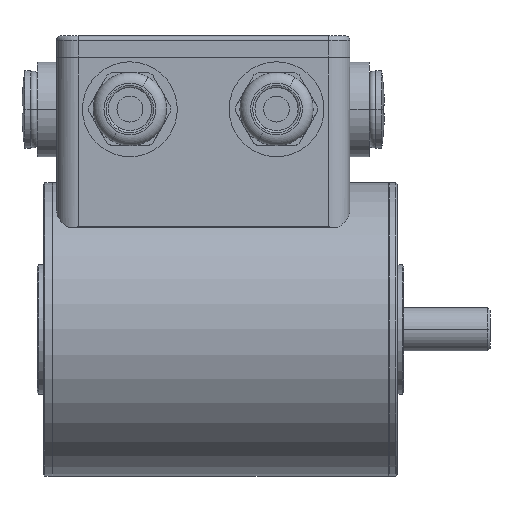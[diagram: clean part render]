
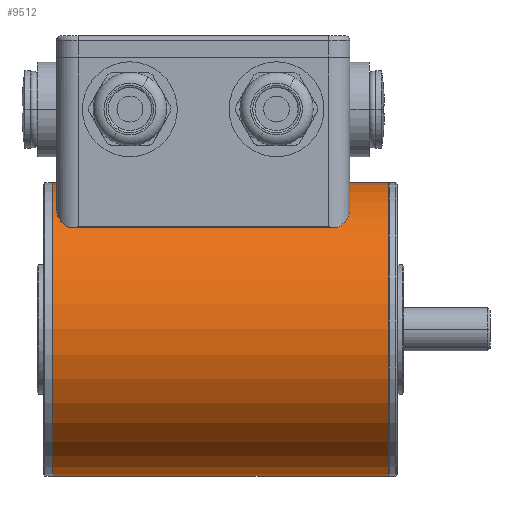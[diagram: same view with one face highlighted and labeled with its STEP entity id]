
A CAD part, top view. The second image highlights one B-rep face of the part: STEP entity #9512.
In plain terms, the highlighted cylindrical face has radius 34 mm (diameter 68 mm), a partial arc.
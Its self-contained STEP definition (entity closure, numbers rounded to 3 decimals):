
#195 = AXIS2_PLACEMENT_3D ( 'NONE', #6168, #426, #7137 ) ;
#426 = DIRECTION ( 'NONE',  ( 1., 0., 0. ) ) ;
#444 = VECTOR ( 'NONE', #4876, 1000. ) ;
#1056 = VERTEX_POINT ( 'NONE', #3389 ) ;
#1067 = VECTOR ( 'NONE', #9930, 1000. ) ;
#1293 = CARTESIAN_POINT ( 'NONE',  ( -2., 34., 0. ) ) ;
#1344 = EDGE_CURVE ( 'NONE', #7880, #1056, #11066, .T. ) ;
#1694 = ORIENTED_EDGE ( 'NONE', *, *, #7929, .T. ) ;
#2241 = AXIS2_PLACEMENT_3D ( 'NONE', #7717, #8507, #7557 ) ;
#2777 = AXIS2_PLACEMENT_3D ( 'NONE', #4873, #9645, #8733 ) ;
#3389 = CARTESIAN_POINT ( 'NONE',  ( -2.1, -34., 0. ) ) ;
#3458 = ORIENTED_EDGE ( 'NONE', *, *, #8544, .F. ) ;
#3617 = LINE ( 'NONE', #1293, #1067 ) ;
#4873 = CARTESIAN_POINT ( 'NONE',  ( -2., 0., 0. ) ) ;
#4876 = DIRECTION ( 'NONE',  ( 1., 0., 0. ) ) ;
#5034 = EDGE_LOOP ( 'NONE', ( #1694, #11685, #9361, #3458 ) ) ;
#5146 = CARTESIAN_POINT ( 'NONE',  ( -79.9, 34., 0. ) ) ;
#5543 = LINE ( 'NONE', #6747, #444 ) ;
#5597 = CARTESIAN_POINT ( 'NONE',  ( -79.9, -34., 0. ) ) ;
#6033 = CARTESIAN_POINT ( 'NONE',  ( -2.1, 34., 0. ) ) ;
#6168 = CARTESIAN_POINT ( 'NONE',  ( -79.9, 0., 0. ) ) ;
#6450 = EDGE_CURVE ( 'NONE', #7548, #1056, #5543, .T. ) ;
#6608 = CIRCLE ( 'NONE', #195, 34. ) ;
#6747 = CARTESIAN_POINT ( 'NONE',  ( -2., -34., 0. ) ) ;
#7137 = DIRECTION ( 'NONE',  ( 0., 1., 0. ) ) ;
#7548 = VERTEX_POINT ( 'NONE', #5597 ) ;
#7557 = DIRECTION ( 'NONE',  ( 0., 1., 0. ) ) ;
#7717 = CARTESIAN_POINT ( 'NONE',  ( -2.1, 0., 0. ) ) ;
#7880 = VERTEX_POINT ( 'NONE', #6033 ) ;
#7929 = EDGE_CURVE ( 'NONE', #11835, #7548, #6608, .T. ) ;
#8507 = DIRECTION ( 'NONE',  ( 1., 0., 0. ) ) ;
#8544 = EDGE_CURVE ( 'NONE', #11835, #7880, #3617, .T. ) ;
#8733 = DIRECTION ( 'NONE',  ( 0., 1., 0. ) ) ;
#8803 = FACE_OUTER_BOUND ( 'NONE', #5034, .T. ) ;
#9361 = ORIENTED_EDGE ( 'NONE', *, *, #1344, .F. ) ;
#9512 = ADVANCED_FACE ( 'NONE', ( #8803 ), #10139, .T. ) ;
#9645 = DIRECTION ( 'NONE',  ( 1., 0., 0. ) ) ;
#9930 = DIRECTION ( 'NONE',  ( 1., 0., 0. ) ) ;
#10139 = CYLINDRICAL_SURFACE ( 'NONE', #2777, 34. ) ;
#11066 = CIRCLE ( 'NONE', #2241, 34. ) ;
#11685 = ORIENTED_EDGE ( 'NONE', *, *, #6450, .T. ) ;
#11835 = VERTEX_POINT ( 'NONE', #5146 ) ;
